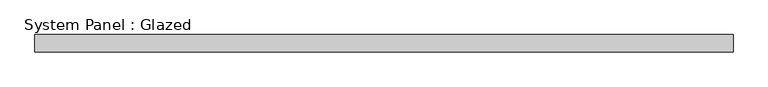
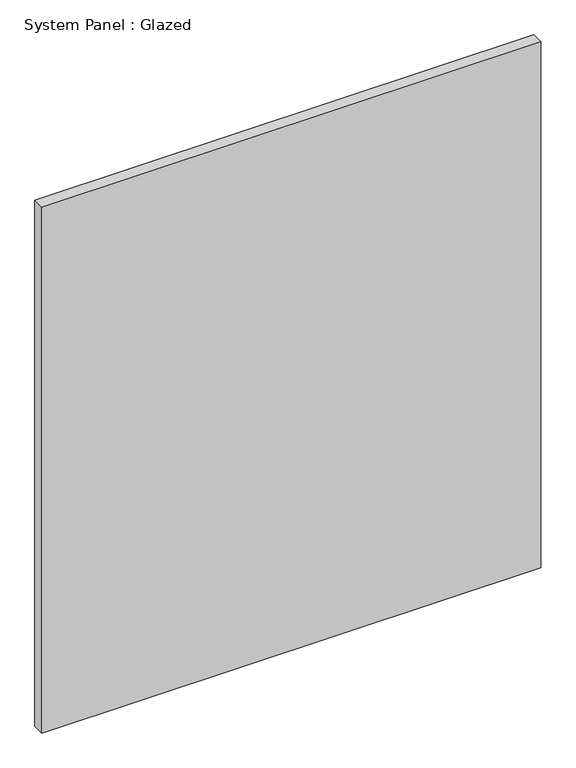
"""IFC4 building model written with IfcOpenShell, lengths in millimetres: plate geometry, System Panel : Glazed."""

from ifc_helpers import new_model, si_unit, origin, origin_with_axes, place, context, project, spatial, polyline, outline, extrude, source, transform, mapped, element, save


def system_panel_glazed_ab954ee1(model_context):
    return source(origin(), model_context, "Body", "SweptSolid", [
        extrude(outline(polyline([(518.432143, 19.05), (-518.432143, 19.05), (-518.432143, 44.45), (518.432143, 44.45), (518.432143, 19.05)])), origin_with_axes(), (0.0, 0.0, 1.0), 1155.7),
    ])


if __name__ == "__main__":
    model = new_model("IFC4")
    model_context = context("Model", 3, world=origin())
    ifc_project = project(units=[si_unit("LENGTHUNIT", "METRE", prefix="MILLI")], contexts=[model_context])
    site = spatial("IfcSite", under=ifc_project)
    building = spatial("IfcBuilding", under=site)
    placement = place(None, origin())
    system_panel_glazed_shape = system_panel_glazed_ab954ee1(model_context)
    element("IfcPlate", 1, ObjectType="System Panel : Glazed", at=placement, inside=building, context=model_context, shape_type="MappedRepresentation", body=[
        mapped(system_panel_glazed_shape, transform((0.0, 0.0, 0.0), x_axis=(1.0, 0.0, 0.0), y_axis=(0.0, 1.0, 0.0), z_axis=(0.0, 0.0, 1.0))),
    ])
    save(model, "model.ifc")
